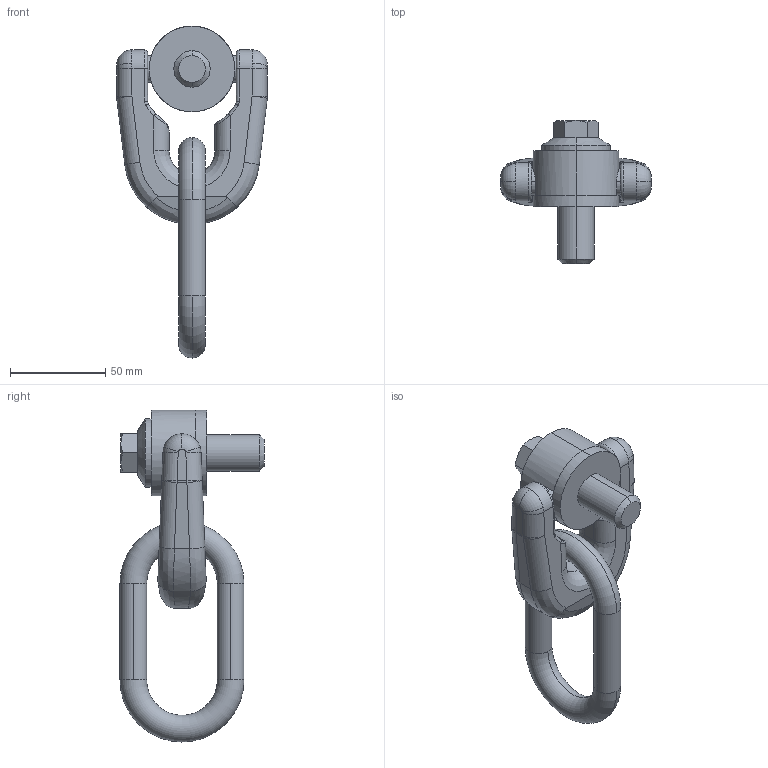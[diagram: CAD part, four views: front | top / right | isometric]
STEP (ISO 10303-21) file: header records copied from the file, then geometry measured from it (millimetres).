
FILE_DESCRIPTION (( 'STEP AP203' ), '1' );
FILE_NAME ('63150.W0275.step', '2013-12-13T11:55:21', ( 'User' ), ( '' ), 'SwSTEP 2.0', 'SolidWorks 2009', '' );
FILE_SCHEMA (( 'CONFIG_CONTROL_DESIGN' ));
Length unit declared in the file: millimetre
Products named in the file (4): Part1_63150.W0275; 63150.W0275; Part2B; Part3_63150.W0275
Assembly tree (3 placements, depth 2):
  63150.W0275
    Part3_63150.W0275
    Part1_63150.W0275
    Part2B
Bounding box: 79 x 75.5 x 174 mm (x, y, z)
Volume: 181723.5 mm3; surface area: 39116.7 mm2
Topology: 3 solids, 3 shells, 133 faces, 317 edges, 190 vertices
Faces by surface type: cylinder 41, plane 33, bspline 33, torus 12, cone 10, sphere 4
Entity records: 5940 total; most frequent: CARTESIAN_POINT 2688, ORIENTED_EDGE 630, DIRECTION 574, EDGE_CURVE 315, AXIS2_PLACEMENT_3D 233, VERTEX_POINT 190, EDGE_LOOP 139, ADVANCED_FACE 133
